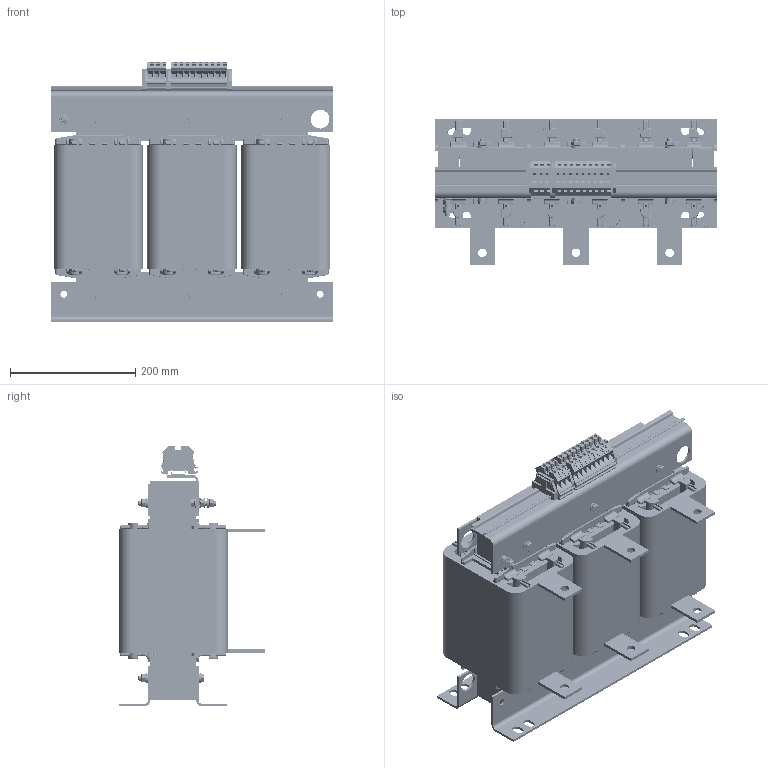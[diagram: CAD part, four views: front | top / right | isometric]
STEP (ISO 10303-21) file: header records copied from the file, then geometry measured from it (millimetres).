
FILE_DESCRIPTION((''),'2;1');
FILE_NAME('C:\Users\fp1\CAD-Daten\DTZ\DTZ16 230 400 24 42.stp','2014-07-02T11:02:32',('FP1'),(''),'Autodesk Inventor 2013','Autodesk Inventor 2013','');
FILE_SCHEMA(('AUTOMOTIVE_DESIGN { 1 0 10303 214 1 1 1 1 }'));
Length unit declared in the file: millimetre
Products named in the file (1): Bauteil18
Bounding box: 450 x 234.6 x 417 mm (x, y, z)
Volume: 17839076.7 mm3; surface area: 2259824.9 mm2
Topology: 4 solids, 4 shells, 12713 faces, 36315 edges, 23644 vertices
Faces by surface type: plane 9731, cylinder 2241, bspline 332, torus 170, sphere 168, cone 71
Full cylindrical faces by diameter (mm): 6.32 x24, 8 x9, 8.3 x2, 8.4 x2, 11 x3, 11.63 x7, 14 x18, 16 x14, 30 x4
Entity records: 419831 total; most frequent: CARTESIAN_POINT 92047, ORIENTED_EDGE 71950, DIRECTION 63789, EDGE_CURVE 35975, VECTOR 28085, LINE 28085, VERTEX_POINT 23524, AXIS2_PLACEMENT_3D 17852
